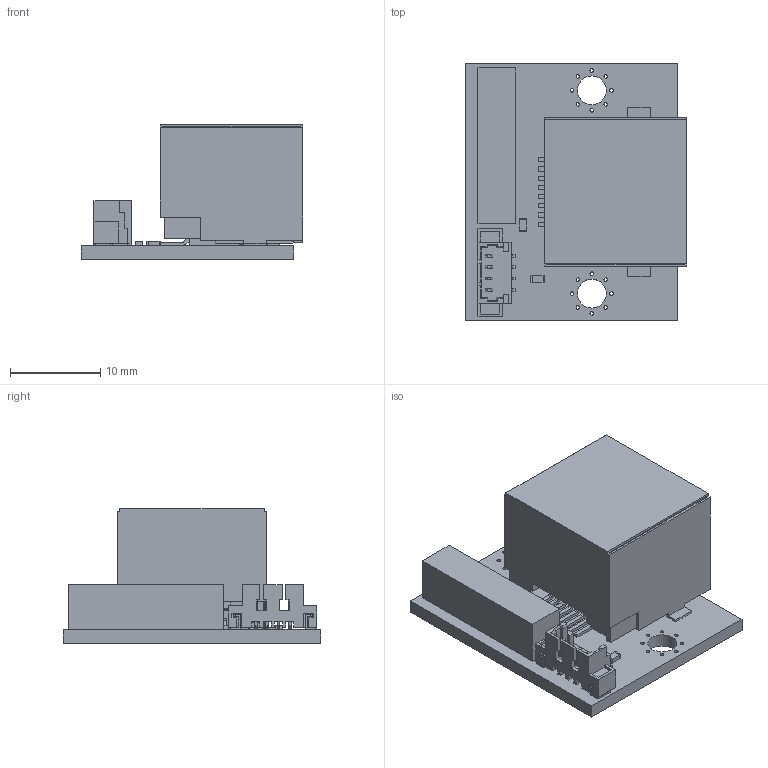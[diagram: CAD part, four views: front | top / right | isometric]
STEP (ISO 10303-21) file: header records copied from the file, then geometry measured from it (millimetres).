
FILE_DESCRIPTION(('Open CASCADE Model'),'2;1');
FILE_NAME('Open CASCADE Shape Model','2026-07-08T11:20:59',('Author'),( 'Open CASCADE'),'Open CASCADE STEP processor 7.5','Open CASCADE 7.5' ,'Unknown');
FILE_SCHEMA(('AUTOMOTIVE_DESIGN { 1 0 10303 214 1 1 1 1 }'));
Length unit declared in the file: millimetre
Products named in the file (26): PCB; Board; Open CASCADE STEP translator 7.5 2.1.1; R2; 8727409216; Extruded; 8727408688; R1; 8727084640; 8727084112; J3; 653104124022; 6531xx124022_PIN; 6531xx124022_PATTE; J2; 64210x0; 76097-006; 5043-881X-LFG; 8038-800N; J1; 14948587728
Assembly tree (31 placements, depth 4):
  PCB
    Board
      Open CASCADE STEP translator 7.5 2.1.1
    R2
      8727409216  x2
        Extruded
      8727408688
        Extruded
    R1
      8727084640  x2
        Extruded
      8727084112
        Extruded
    J3
      653104124022
        6531xx124022_PIN  x4
        6531xx124022_PATTE  x2
        653104124022
    J2
      64210x0
        76097-006
        5043-881X-LFG
        8038-800N
    J1
      14948587728
        Extruded
Bounding box: 24.5 x 28.5 x 14.93 mm (x, y, z)
Volume: 3164.3 mm3; surface area: 6337.7 mm2
Topology: 18 solids, 18 shells, 683 faces, 1856 edges, 1218 vertices
Faces by surface type: plane 594, cylinder 89
Full cylindrical faces by diameter (mm): 0.4 x16, 3.2 x2, 3.23 x2
Entity records: 20456 total; most frequent: CARTESIAN_POINT 3327, ORIENTED_EDGE 3262, DIRECTION 3051, EDGE_CURVE 1631, LINE 1459, VECTOR 1459, VERTEX_POINT 1072, AXIS2_PLACEMENT_3D 796
